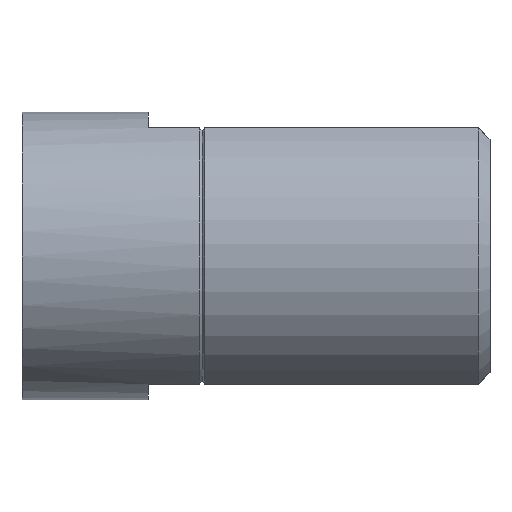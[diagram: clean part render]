
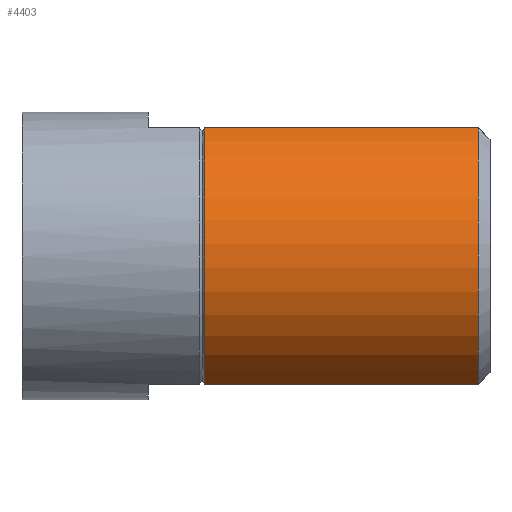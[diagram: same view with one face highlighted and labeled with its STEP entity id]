
A CAD part, left-side view. The second image highlights one B-rep face of the part: STEP entity #4403.
In plain terms, the highlighted cylindrical face has radius 12.694 mm (diameter 25.387 mm), a partial arc.
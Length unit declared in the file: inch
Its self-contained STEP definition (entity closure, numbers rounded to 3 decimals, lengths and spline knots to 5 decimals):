
#162 = DIRECTION ( 'NONE',  ( 0., 0., -1. ) ) ;
#192 = EDGE_LOOP ( 'NONE', ( #647, #6250, #5189, #6927 ) ) ;
#393 = VERTEX_POINT ( 'NONE', #4185 ) ;
#584 = AXIS2_PLACEMENT_3D ( 'NONE', #2824, #6082, #162 ) ;
#647 = ORIENTED_EDGE ( 'NONE', *, *, #4330, .F. ) ;
#947 = DIRECTION ( 'NONE',  ( 0., -1., 0. ) ) ;
#1264 = DIRECTION ( 'NONE',  ( 0., 1., 0. ) ) ;
#1361 = CYLINDRICAL_SURFACE ( 'NONE', #3950, 0.49975 ) ;
#1429 = DIRECTION ( 'NONE',  ( 0., 0., -1. ) ) ;
#1751 = CARTESIAN_POINT ( 'NONE',  ( -0.22743, -0.01453, -0.445 ) ) ;
#1785 = VERTEX_POINT ( 'NONE', #3171 ) ;
#1913 = VERTEX_POINT ( 'NONE', #6214 ) ;
#2412 = CARTESIAN_POINT ( 'NONE',  ( 0., 0., 0. ) ) ;
#2755 = VECTOR ( 'NONE', #1264, 39.37008 ) ;
#2824 = CARTESIAN_POINT ( 'NONE',  ( 0., 0.04, 0. ) ) ;
#3171 = CARTESIAN_POINT ( 'NONE',  ( -0.22743, 0.04, 0.445 ) ) ;
#3390 = VECTOR ( 'NONE', #5723, 39.37008 ) ;
#3526 = CARTESIAN_POINT ( 'NONE',  ( -0.22743, -0.01453, 0.445 ) ) ;
#3786 = EDGE_CURVE ( 'NONE', #1785, #393, #4950, .T. ) ;
#3950 = AXIS2_PLACEMENT_3D ( 'NONE', #2412, #947, #1429 ) ;
#4167 = CARTESIAN_POINT ( 'NONE',  ( -0.22743, 0.99, -0.445 ) ) ;
#4185 = CARTESIAN_POINT ( 'NONE',  ( -0.22743, 0.99, 0.445 ) ) ;
#4330 = EDGE_CURVE ( 'NONE', #1913, #5021, #6158, .T. ) ;
#4403 = ADVANCED_FACE ( 'NONE', ( #6230 ), #1361, .T. ) ;
#4522 = CIRCLE ( 'NONE', #5431, 0.49975 ) ;
#4743 = EDGE_CURVE ( 'NONE', #1913, #1785, #6675, .T. ) ;
#4815 = CARTESIAN_POINT ( 'NONE',  ( 0., 0.99, 0. ) ) ;
#4950 = LINE ( 'NONE', #3526, #3390 ) ;
#5021 = VERTEX_POINT ( 'NONE', #4167 ) ;
#5189 = ORIENTED_EDGE ( 'NONE', *, *, #3786, .T. ) ;
#5431 = AXIS2_PLACEMENT_3D ( 'NONE', #4815, #5917, #6979 ) ;
#5723 = DIRECTION ( 'NONE',  ( 0., 1., 0. ) ) ;
#5917 = DIRECTION ( 'NONE',  ( 0., -1., 0. ) ) ;
#6082 = DIRECTION ( 'NONE',  ( 0., 1., 0. ) ) ;
#6158 = LINE ( 'NONE', #1751, #2755 ) ;
#6214 = CARTESIAN_POINT ( 'NONE',  ( -0.22743, 0.04, -0.445 ) ) ;
#6230 = FACE_OUTER_BOUND ( 'NONE', #192, .T. ) ;
#6250 = ORIENTED_EDGE ( 'NONE', *, *, #4743, .T. ) ;
#6675 = CIRCLE ( 'NONE', #584, 0.49975 ) ;
#6876 = EDGE_CURVE ( 'NONE', #393, #5021, #4522, .T. ) ;
#6927 = ORIENTED_EDGE ( 'NONE', *, *, #6876, .T. ) ;
#6979 = DIRECTION ( 'NONE',  ( 0., 0., 1. ) ) ;
